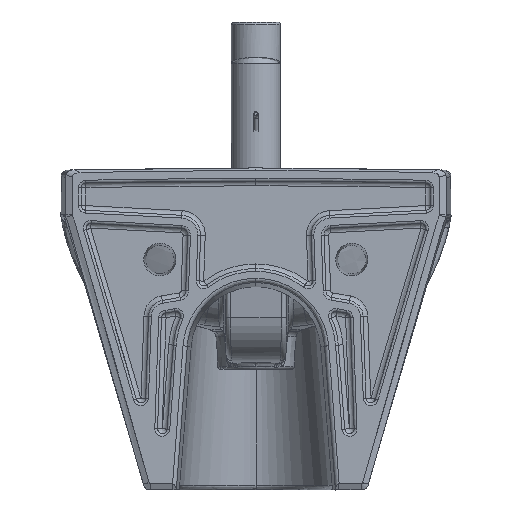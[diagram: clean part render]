
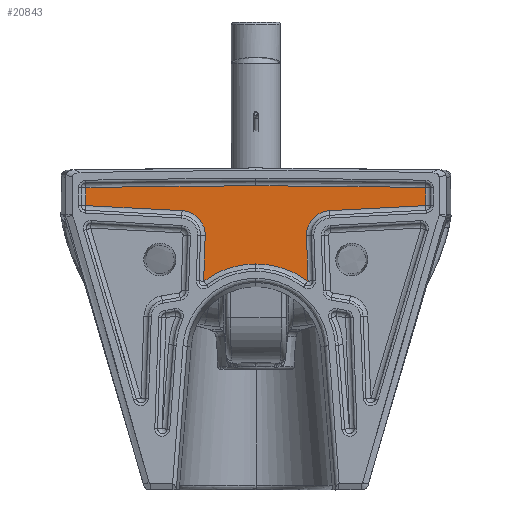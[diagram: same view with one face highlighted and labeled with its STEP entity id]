
A CAD part, left-side view. The second image highlights one B-rep face of the part: STEP entity #20843.
In plain terms, the highlighted planar face has unit normal (-1, 0.001, 0).
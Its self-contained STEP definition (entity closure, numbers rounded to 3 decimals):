
#17784=CARTESIAN_POINT('',(4.0,-159.283,-33.394));
#17785=VERTEX_POINT('',#17784);
#17793=CARTESIAN_POINT('',(4.,-69.162,-38.12));
#17794=VERTEX_POINT('',#17793);
#17795=CARTESIAN_POINT('',(4.0,-159.283,-33.394));
#17796=DIRECTION('',(0.0,0.999,-0.052));
#17797=VECTOR('',#17796,90.245);
#17798=LINE('',#17795,#17797);
#17799=EDGE_CURVE('',#17785,#17794,#17798,.T.);
#17838=CARTESIAN_POINT('',(4.,-159.379,-33.293));
#17839=VERTEX_POINT('',#17838);
#17847=CARTESIAN_POINT('',(4.0,-159.277,-33.293));
#17848=DIRECTION('',(-1.0,0.0,0.0));
#17849=DIRECTION('',(0.0,1.0,0.0));
#17850=AXIS2_PLACEMENT_3D('',#17847,#17848,#17849);
#17851=CIRCLE('',#17850,0.101);
#17852=EDGE_CURVE('',#17839,#17785,#17851,.F.);
#17864=CARTESIAN_POINT('',(4.0,-159.379,-16.6));
#17865=VERTEX_POINT('',#17864);
#17873=CARTESIAN_POINT('',(4.0,-159.379,-16.6));
#17874=DIRECTION('',(0.0,0.,-1.0));
#17875=VECTOR('',#17874,16.693);
#17876=LINE('',#17873,#17875);
#17877=EDGE_CURVE('',#17865,#17839,#17876,.T.);
#17910=CARTESIAN_POINT('',(4.,-159.28,-16.499));
#17911=VERTEX_POINT('',#17910);
#17919=CARTESIAN_POINT('',(4.0,-159.277,-16.6));
#17920=DIRECTION('',(-1.0,0.0,0.0));
#17921=DIRECTION('',(0.0,1.0,0.0));
#17922=AXIS2_PLACEMENT_3D('',#17919,#17920,#17921);
#17923=CIRCLE('',#17922,0.101);
#17924=EDGE_CURVE('',#17911,#17865,#17923,.F.);
#17936=CARTESIAN_POINT('',(4.,0.,-14.899));
#17937=VERTEX_POINT('',#17936);
#17945=CARTESIAN_POINT('',(4.0,0.002,-7944.916));
#17946=DIRECTION('',(-1.0,0.0,0.0));
#17947=DIRECTION('',(0.0,1.0,0.0));
#17948=AXIS2_PLACEMENT_3D('',#17945,#17946,#17947);
#17949=CIRCLE('',#17948,7930.017);
#17950=EDGE_CURVE('',#17937,#17911,#17949,.F.);
#18013=CARTESIAN_POINT('',(4.0,-48.794,-104.223));
#18014=VERTEX_POINT('',#18013);
#18024=CARTESIAN_POINT('',(4.,0.,-88.101));
#18025=VERTEX_POINT('',#18024);
#18026=CARTESIAN_POINT('',(4.0,-48.794,-104.223));
#18027=CARTESIAN_POINT('',(4.0,-44.597,-101.11));
#18028=CARTESIAN_POINT('',(4.0,-40.151,-98.331));
#18029=CARTESIAN_POINT('',(4.0,-35.493,-95.913));
#18030=CARTESIAN_POINT('',(4.0,-25.829,-91.841));
#18031=CARTESIAN_POINT('',(4.0,-15.64,-89.353));
#18032=CARTESIAN_POINT('',(4.0,-10.457,-88.518));
#18033=CARTESIAN_POINT('',(4.,-5.228,-88.101));
#18034=CARTESIAN_POINT('',(4.,0.,-88.101));
#18035=B_SPLINE_CURVE_WITH_KNOTS('',5,(#18026,#18027,#18028,#18029,#18030,#18031,#18032,#18033,#18034),.UNSPECIFIED.,.F.,.U.,(6,3,6),(53.429,99.361,145.295),.UNSPECIFIED.);
#18036=EDGE_CURVE('',#18014,#18025,#18035,.T.);
#18089=CARTESIAN_POINT('',(4.0,-48.955,-104.139));
#18090=VERTEX_POINT('',#18089);
#18098=CARTESIAN_POINT('',(4.0,-48.854,-104.142));
#18099=DIRECTION('',(-1.0,0.0,0.0));
#18100=DIRECTION('',(0.0,1.0,0.0));
#18101=AXIS2_PLACEMENT_3D('',#18098,#18099,#18100);
#18102=CIRCLE('',#18101,0.101);
#18103=EDGE_CURVE('',#18090,#18014,#18102,.F.);
#18115=CARTESIAN_POINT('',(4.0,-47.476,-61.786));
#18116=VERTEX_POINT('',#18115);
#18124=CARTESIAN_POINT('',(4.,-47.476,-61.786));
#18125=DIRECTION('',(0.,-0.035,-0.999));
#18126=VECTOR('',#18125,42.378);
#18127=LINE('',#18124,#18126);
#18128=EDGE_CURVE('',#18116,#18090,#18127,.T.);
#18141=CARTESIAN_POINT('',(4.0,-70.361,-60.987));
#18142=DIRECTION('',(-1.0,0.0,0.0));
#18143=DIRECTION('',(0.0,1.0,0.0));
#18144=AXIS2_PLACEMENT_3D('',#18141,#18142,#18143);
#18145=CIRCLE('',#18144,22.899);
#18146=EDGE_CURVE('',#17794,#18116,#18145,.T.);
#20746=CARTESIAN_POINT('',(4.0,0.0,0.0));
#20747=DIRECTION('',(1.0,0.0,0.0));
#20748=DIRECTION('',(0.0,0.0,-1.0));
#20749=AXIS2_PLACEMENT_3D('',#20746,#20747,#20748);
#20750=PLANE('',#20749);
#20751=ORIENTED_EDGE('',*,*,#18036,.F.);
#20752=ORIENTED_EDGE('',*,*,#18103,.F.);
#20753=ORIENTED_EDGE('',*,*,#18128,.F.);
#20754=ORIENTED_EDGE('',*,*,#18146,.F.);
#20755=ORIENTED_EDGE('',*,*,#17799,.F.);
#20756=ORIENTED_EDGE('',*,*,#17852,.F.);
#20757=ORIENTED_EDGE('',*,*,#17877,.F.);
#20758=ORIENTED_EDGE('',*,*,#17924,.F.);
#20759=ORIENTED_EDGE('',*,*,#17950,.F.);
#20760=CARTESIAN_POINT('',(4.,159.28,-16.499));
#20761=VERTEX_POINT('',#20760);
#20762=CARTESIAN_POINT('',(4.0,-0.002,-7944.916));
#20763=DIRECTION('',(1.0,0.0,0.0));
#20764=DIRECTION('',(0.0,0.,1.));
#20765=AXIS2_PLACEMENT_3D('',#20762,#20763,#20764);
#20766=CIRCLE('',#20765,7930.017);
#20767=EDGE_CURVE('',#17937,#20761,#20766,.F.);
#20768=ORIENTED_EDGE('',*,*,#20767,.T.);
#20769=CARTESIAN_POINT('',(4.0,159.379,-16.6));
#20770=VERTEX_POINT('',#20769);
#20771=CARTESIAN_POINT('',(4.0,159.277,-16.6));
#20772=DIRECTION('',(1.0,0.0,0.0));
#20773=DIRECTION('',(0.0,1.0,0.0));
#20774=AXIS2_PLACEMENT_3D('',#20771,#20772,#20773);
#20775=CIRCLE('',#20774,0.101);
#20776=EDGE_CURVE('',#20761,#20770,#20775,.F.);
#20777=ORIENTED_EDGE('',*,*,#20776,.T.);
#20778=CARTESIAN_POINT('',(4.,159.379,-33.293));
#20779=VERTEX_POINT('',#20778);
#20780=CARTESIAN_POINT('',(4.0,159.379,-33.293));
#20781=DIRECTION('',(0.0,0.,1.0));
#20782=VECTOR('',#20781,16.693);
#20783=LINE('',#20780,#20782);
#20784=EDGE_CURVE('',#20770,#20779,#20783,.F.);
#20785=ORIENTED_EDGE('',*,*,#20784,.T.);
#20786=CARTESIAN_POINT('',(4.0,159.283,-33.394));
#20787=VERTEX_POINT('',#20786);
#20788=CARTESIAN_POINT('',(4.0,159.277,-33.293));
#20789=DIRECTION('',(1.0,0.0,0.0));
#20790=DIRECTION('',(0.0,1.0,0.0));
#20791=AXIS2_PLACEMENT_3D('',#20788,#20789,#20790);
#20792=CIRCLE('',#20791,0.101);
#20793=EDGE_CURVE('',#20779,#20787,#20792,.F.);
#20794=ORIENTED_EDGE('',*,*,#20793,.T.);
#20795=CARTESIAN_POINT('',(4.0,69.162,-38.12));
#20796=VERTEX_POINT('',#20795);
#20797=CARTESIAN_POINT('',(4.0,69.162,-38.12));
#20798=DIRECTION('',(0.0,0.999,0.052));
#20799=VECTOR('',#20798,90.245);
#20800=LINE('',#20797,#20799);
#20801=EDGE_CURVE('',#20787,#20796,#20800,.F.);
#20802=ORIENTED_EDGE('',*,*,#20801,.T.);
#20803=CARTESIAN_POINT('',(4.0,47.476,-61.786));
#20804=VERTEX_POINT('',#20803);
#20805=CARTESIAN_POINT('',(4.0,70.361,-60.987));
#20806=DIRECTION('',(1.0,0.0,0.0));
#20807=DIRECTION('',(0.0,1.0,0.0));
#20808=AXIS2_PLACEMENT_3D('',#20805,#20806,#20807);
#20809=CIRCLE('',#20808,22.899);
#20810=EDGE_CURVE('',#20796,#20804,#20809,.T.);
#20811=ORIENTED_EDGE('',*,*,#20810,.T.);
#20812=CARTESIAN_POINT('',(4.0,48.955,-104.139));
#20813=VERTEX_POINT('',#20812);
#20814=CARTESIAN_POINT('',(4.0,48.955,-104.139));
#20815=DIRECTION('',(0.0,-0.035,0.999));
#20816=VECTOR('',#20815,42.378);
#20817=LINE('',#20814,#20816);
#20818=EDGE_CURVE('',#20804,#20813,#20817,.F.);
#20819=ORIENTED_EDGE('',*,*,#20818,.T.);
#20820=CARTESIAN_POINT('',(4.0,48.794,-104.223));
#20821=VERTEX_POINT('',#20820);
#20822=CARTESIAN_POINT('',(4.0,48.854,-104.142));
#20823=DIRECTION('',(1.0,0.0,0.0));
#20824=DIRECTION('',(0.0,1.0,0.0));
#20825=AXIS2_PLACEMENT_3D('',#20822,#20823,#20824);
#20826=CIRCLE('',#20825,0.101);
#20827=EDGE_CURVE('',#20813,#20821,#20826,.F.);
#20828=ORIENTED_EDGE('',*,*,#20827,.T.);
#20829=CARTESIAN_POINT('',(4.0,48.794,-104.223));
#20830=CARTESIAN_POINT('',(4.0,44.597,-101.11));
#20831=CARTESIAN_POINT('',(4.0,40.151,-98.331));
#20832=CARTESIAN_POINT('',(4.0,35.493,-95.913));
#20833=CARTESIAN_POINT('',(4.0,25.829,-91.841));
#20834=CARTESIAN_POINT('',(4.0,15.64,-89.353));
#20835=CARTESIAN_POINT('',(4.0,10.457,-88.518));
#20836=CARTESIAN_POINT('',(4.,5.228,-88.101));
#20837=CARTESIAN_POINT('',(4.,0.,-88.101));
#20838=B_SPLINE_CURVE_WITH_KNOTS('',5,(#20829,#20830,#20831,#20832,#20833,#20834,#20835,#20836,#20837),.UNSPECIFIED.,.F.,.U.,(6,3,6),(53.429,99.361,145.295),.UNSPECIFIED.);
#20839=EDGE_CURVE('',#20821,#18025,#20838,.T.);
#20840=ORIENTED_EDGE('',*,*,#20839,.T.);
#20841=EDGE_LOOP('',(#20751,#20752,#20753,#20754,#20755,#20756,#20757,#20758,#20759,#20768,#20777,#20785,#20794,#20802,#20811,#20819,#20828,#20840));
#20842=FACE_OUTER_BOUND('',#20841,.T.);
#20843=ADVANCED_FACE('',(#20842),#20750,.F.);
